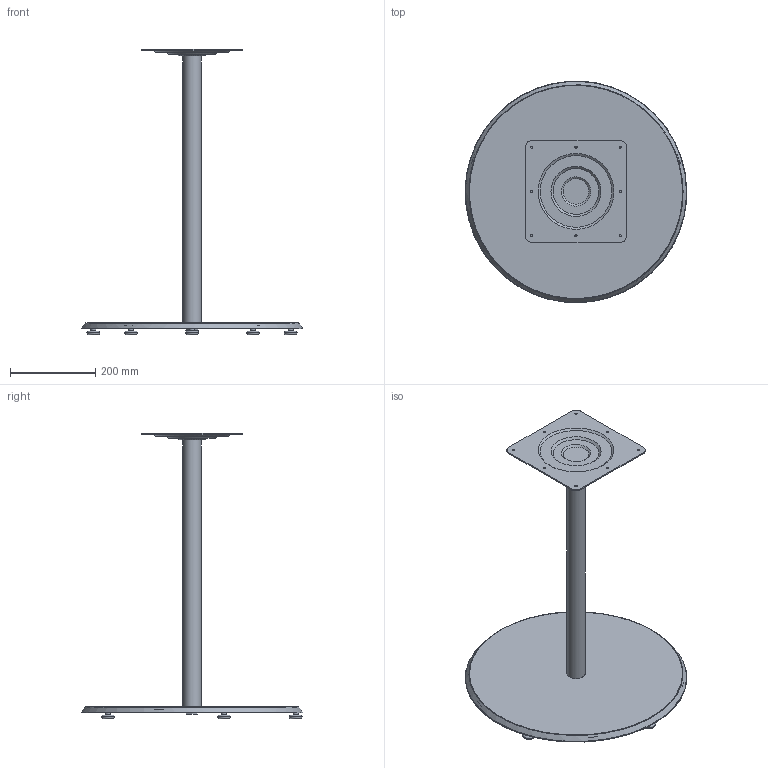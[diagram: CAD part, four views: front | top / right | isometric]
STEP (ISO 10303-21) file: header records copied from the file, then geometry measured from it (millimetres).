
FILE_DESCRIPTION(/* description */ (''),/* implementation_level */ '2;1');
FILE_NAME(/* name */ 'kinoshita_abord_tl012-3',/* time_stamp */ '2025-09-01T14:21:38+09:00',/* author */ (''),/* organization */ (''),/* preprocessor_version */ 'ST-DEVELOPER v16.5',/* originating_system */ '',/* authorisation */ '');
FILE_SCHEMA (('AUTOMOTIVE_DESIGN'));
Length unit declared in the file: millimetre
Products named in the file (1): Document
Bounding box: 519.94 x 519.6 x 669.98 mm (x, y, z)
Volume: 2329629.9 mm3; surface area: 699872.7 mm2
Topology: 6 solids, 6 shells, 173 faces, 377 edges, 234 vertices
Faces by surface type: bspline 121, plane 52
Entity records: 5678 total; most frequent: CARTESIAN_POINT 3508, ORIENTED_EDGE 754, EDGE_CURVE 377, VERTEX_POINT 234, EDGE_LOOP 207, ADVANCED_FACE 173, FACE_OUTER_BOUND 173, DIRECTION 56
